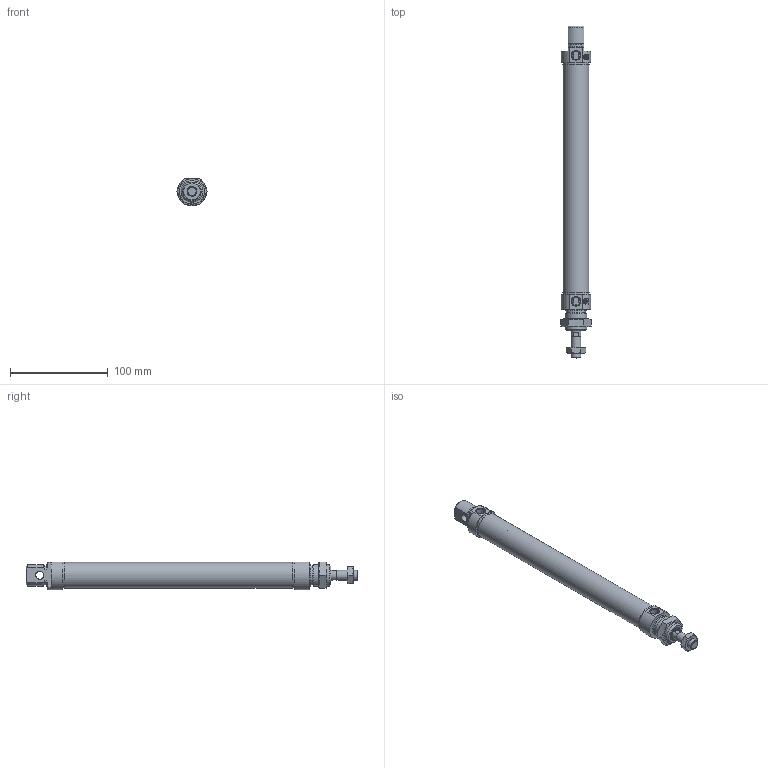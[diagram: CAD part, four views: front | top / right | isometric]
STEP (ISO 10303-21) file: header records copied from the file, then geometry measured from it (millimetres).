
FILE_DESCRIPTION(/* description */ ('Unknown'),/* implementation_level */ '2;1');
FILE_NAME(/* name */ 'RDM 25_200',/* time_stamp */ '2024-08-28T12:44:40+02:00',/* author */ ('Unknown'),/* organization */ ('Unknown'),/* preprocessor_version */ 'ST-DEVELOPER v16.7',/* originating_system */ 'Solid Edge',/* authorisation */ 'Unknown');
FILE_SCHEMA (('AUTOMOTIVE_DESIGN {1 0 10303 214 3 1 1}'));
Length unit declared in the file: millimetre
Products named in the file (7): RDM 25_200; Profilrohr; Kolbenstange; Kit_1; Kit_2; Mutter_1; Mutter_2
Assembly tree (6 placements, depth 2):
  RDM 25_200
    Profilrohr
    Kolbenstange
    Kit_1
    Kit_2
    Mutter_1
    Mutter_2
Bounding box: 31.18 x 340 x 28.45 mm (x, y, z)
Volume: 88062.7 mm3; surface area: 65353.7 mm2
Topology: 6 solids, 8 shells, 195 faces, 429 edges, 271 vertices
Faces by surface type: plane 76, cylinder 55, cone 53, torus 9, bspline 2
Full cylindrical faces by diameter (mm): 1.75 x2, 1.8 x2, 3.4 x2, 3.5 x2, 8 x1, 8.5 x1, 8.55 x1, 8.56 x1, 8.566 x3, 8.647 x1, 10 x2, 10.5 x2, 11.1 x1, 12 x1, 14 x1, 14.1 x1, 16.1 x1, 16.2 x1, 19.7 x1, 20.376 x1, 22 x2, 25 x2, 26.5 x1, 27 x2
Entity records: 6379 total; most frequent: CARTESIAN_POINT 1129, DIRECTION 815, ORIENTED_EDGE 656, AXIS2_PLACEMENT_3D 360, EDGE_CURVE 328, FACE_BOUND 303, EDGE_LOOP 301, VERTEX_POINT 247
